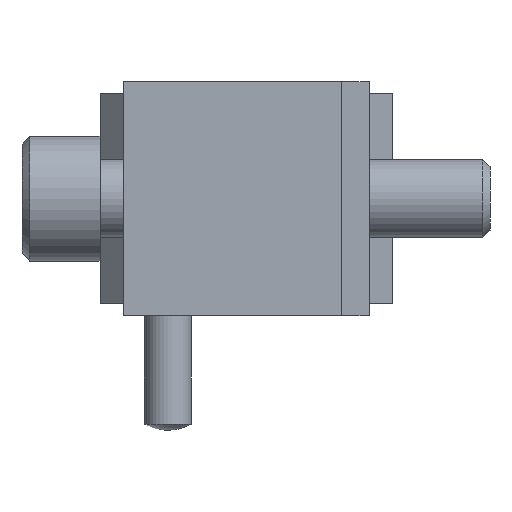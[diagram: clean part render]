
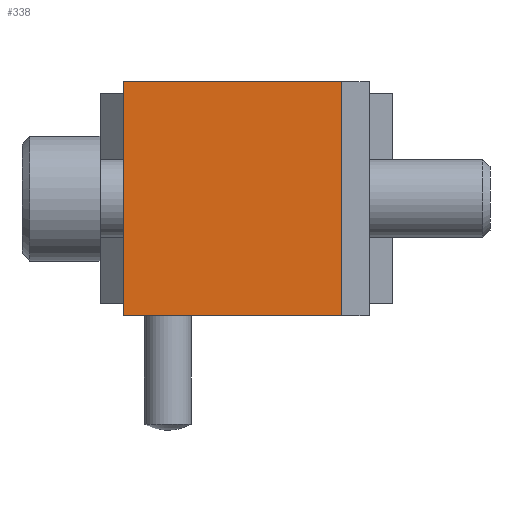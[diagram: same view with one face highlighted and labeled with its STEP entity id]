
A CAD part, left-side view. The second image highlights one B-rep face of the part: STEP entity #338.
In plain terms, the highlighted planar face has unit normal (-1, 0, 0).
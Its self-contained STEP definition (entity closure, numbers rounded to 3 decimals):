
#338 = ADVANCED_FACE( '', ( #642 ), #643, .F. );
#642 = FACE_OUTER_BOUND( '', #992, .T. );
#643 = PLANE( '', #993 );
#992 = EDGE_LOOP( '', ( #1466, #1467, #1468, #1469 ) );
#993 = AXIS2_PLACEMENT_3D( '', #1470, #1471, #1472 );
#1466 = ORIENTED_EDGE( '', *, *, #2120, .F. );
#1467 = ORIENTED_EDGE( '', *, *, #2110, .F. );
#1468 = ORIENTED_EDGE( '', *, *, #2121, .F. );
#1469 = ORIENTED_EDGE( '', *, *, #2122, .T. );
#1470 = CARTESIAN_POINT( '', ( 0., 31.5, -15. ) );
#1471 = DIRECTION( '', ( 1., 0., 0. ) );
#1472 = DIRECTION( '', ( 0., 0., -1. ) );
#2110 = EDGE_CURVE( '', #2484, #2486, #2487, .T. );
#2120 = EDGE_CURVE( '', #2486, #2499, #2500, .T. );
#2121 = EDGE_CURVE( '', #2501, #2484, #2502, .T. );
#2122 = EDGE_CURVE( '', #2501, #2499, #2503, .T. );
#2484 = VERTEX_POINT( '', #3032 );
#2486 = VERTEX_POINT( '', #3035 );
#2487 = LINE( '', #3036, #3037 );
#2499 = VERTEX_POINT( '', #3053 );
#2500 = LINE( '', #3054, #3055 );
#2501 = VERTEX_POINT( '', #3056 );
#2502 = LINE( '', #3057, #3058 );
#2503 = LINE( '', #3059, #3060 );
#3032 = CARTESIAN_POINT( '', ( 0., 31.5, 15. ) );
#3035 = CARTESIAN_POINT( '', ( 0., 3.5, 15. ) );
#3036 = CARTESIAN_POINT( '', ( 0., 31.5, 15. ) );
#3037 = VECTOR( '', #3443, 1000. );
#3053 = CARTESIAN_POINT( '', ( 0., 3.5, -15. ) );
#3054 = CARTESIAN_POINT( '', ( 0., 3.5, -15. ) );
#3055 = VECTOR( '', #3454, 1000. );
#3056 = CARTESIAN_POINT( '', ( 0., 31.5, -15. ) );
#3057 = CARTESIAN_POINT( '', ( 0., 31.5, -15. ) );
#3058 = VECTOR( '', #3455, 1000. );
#3059 = CARTESIAN_POINT( '', ( 0., 31.5, -15. ) );
#3060 = VECTOR( '', #3456, 1000. );
#3443 = DIRECTION( '', ( 0., -1., 0. ) );
#3454 = DIRECTION( '', ( 0., 0., -1. ) );
#3455 = DIRECTION( '', ( 0., 0., 1. ) );
#3456 = DIRECTION( '', ( 0., -1., 0. ) );
